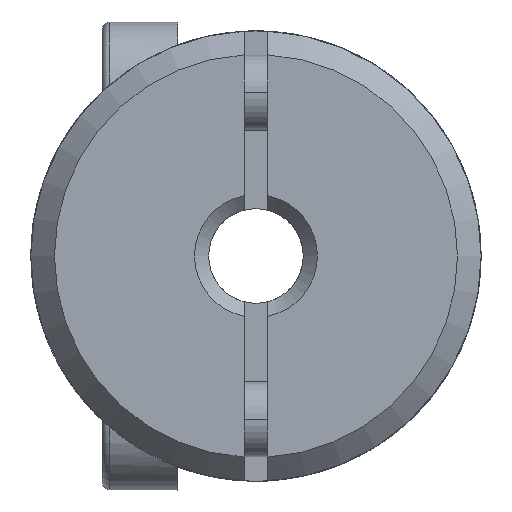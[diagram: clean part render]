
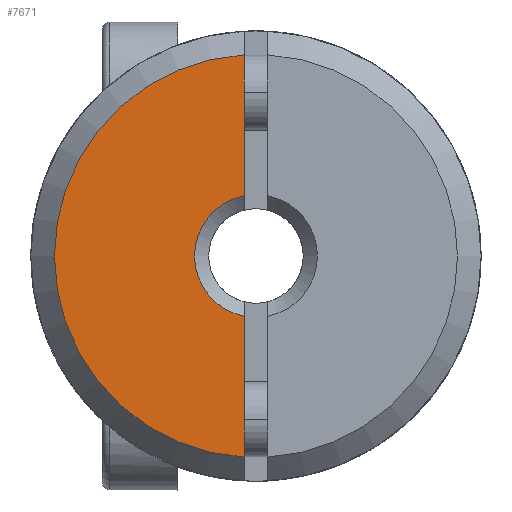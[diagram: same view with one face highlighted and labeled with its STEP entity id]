
A CAD part, left-side view. The second image highlights one B-rep face of the part: STEP entity #7671.
In plain terms, the highlighted planar face has unit normal (-1, 0, 0).
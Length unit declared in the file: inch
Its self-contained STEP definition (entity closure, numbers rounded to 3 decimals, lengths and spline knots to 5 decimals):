
#3114=CARTESIAN_POINT('',(-0.37591,-0.01085,
0.06051));
#3115=DIRECTION('',(1.,0.,0.));
#3116=DIRECTION('',(0.,0.192,-0.981));
#3117=AXIS2_PLACEMENT_3D('',#3114,#3115,#3116);
#3119=DIRECTION('',(0.,0.,1.));
#3120=VECTOR('',#3119,0.1173);
#3121=CARTESIAN_POINT('',(-0.37591,-0.00101,
-0.10701));
#3122=LINE('',#3121,#3120);
#3123=CARTESIAN_POINT('',(-0.37591,-0.01085,
0.06051));
#3124=DIRECTION('',(-1.,0.,0.));
#3125=DIRECTION('',(0.,0.059,0.998));
#3126=AXIS2_PLACEMENT_3D('',#3123,#3124,#3125);
#3139=DIRECTION('',(0.,0.,-1.));
#3140=VECTOR('',#3139,0.1173);
#3141=CARTESIAN_POINT('',(-0.37591,-0.00101,
0.22804));
#3142=LINE('',#3141,#3140);
#3256=CARTESIAN_POINT('',(-0.37591,-0.00101,
-0.10701));
#4211=VERTEX_POINT('',#3256);
#4212=CARTESIAN_POINT('',(-0.37591,-0.00101,
0.01029));
#4213=VERTEX_POINT('',#4212);
#4237=CARTESIAN_POINT('',(-0.37591,-0.00101,
0.22804));
#4238=VERTEX_POINT('',#4237);
#4270=CARTESIAN_POINT('',(-0.37591,-0.00101,
0.11074));
#4271=VERTEX_POINT('',#4270);
#7657=CARTESIAN_POINT('',(-0.37591,0.07805,
0.06051));
#7658=DIRECTION('',(1.,0.,0.));
#7659=DIRECTION('',(0.,0.,1.));
#7660=AXIS2_PLACEMENT_3D('',#7657,#7658,#7659);
#7661=PLANE('',#7660);
#7663=ORIENTED_EDGE('',*,*,#7662,.T.);
#7665=ORIENTED_EDGE('',*,*,#7664,.F.);
#7666=ORIENTED_EDGE('',*,*,#7628,.F.);
#7668=ORIENTED_EDGE('',*,*,#7667,.F.);
#7669=EDGE_LOOP('',(#7663,#7665,#7666,#7668));
#7670=FACE_OUTER_BOUND('',#7669,.F.);
#3118=CIRCLE('',#3117,0.05118);
#3127=CIRCLE('',#3126,0.16781);
#7628=EDGE_CURVE('',#4211,#4213,#3122,.T.);
#7662=EDGE_CURVE('',#4238,#4271,#3142,.T.);
#7664=EDGE_CURVE('',#4213,#4271,#3118,.T.);
#7667=EDGE_CURVE('',#4238,#4211,#3127,.T.);
#7671=ADVANCED_FACE('',(#7670),#7661,.F.);
